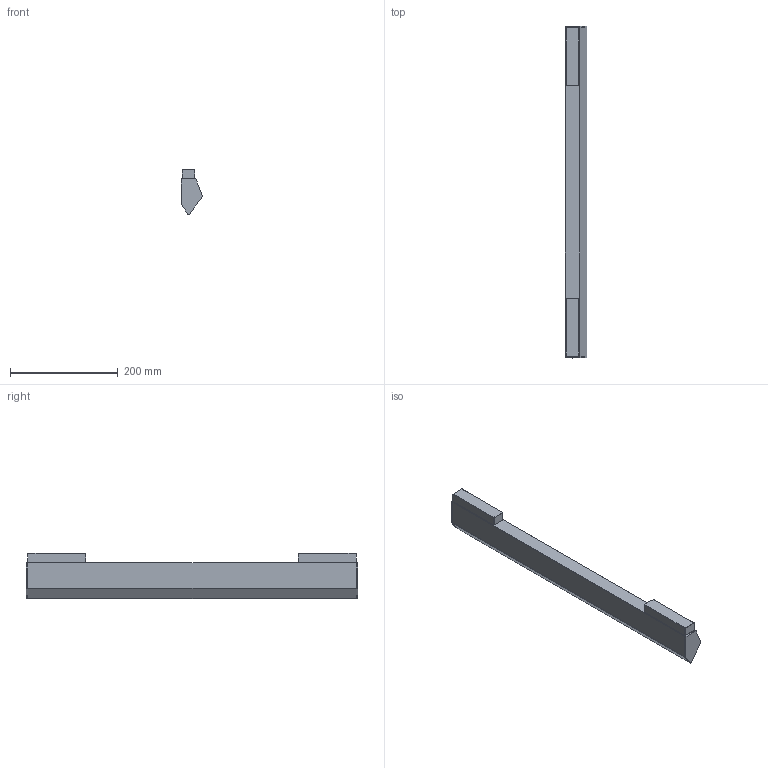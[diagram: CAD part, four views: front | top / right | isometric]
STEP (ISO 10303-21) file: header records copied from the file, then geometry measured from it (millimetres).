
FILE_DESCRIPTION(/* description */ (''),/* implementation_level */ '2;1');
FILE_NAME(/* name */ 'A.24 - Wall Washer - 600',/* time_stamp */ '2026-06-15T12:38:04+02:00',/* author */ (''),/* organization */ (''),/* preprocessor_version */ 'ST-DEVELOPER v16.5',/* originating_system */ 'Rhino 7.38',/* authorisation */ '');
FILE_SCHEMA (('CONFIG_CONTROL_DESIGN'));
Length unit declared in the file: millimetre
Products named in the file (1): Document
Bounding box: 39.98 x 616.5 x 83.74 mm (x, y, z)
Volume: 519134.4 mm3; surface area: 263994.6 mm2
Topology: 5 solids, 7 shells, 124 faces, 286 edges, 177 vertices
Faces by surface type: plane 54, cylinder 47, bspline 23
Entity records: 3714 total; most frequent: CARTESIAN_POINT 1791, ORIENTED_EDGE 566, EDGE_CURVE 284, VERTEX_POINT 174, EDGE_LOOP 126, ADVANCED_FACE 124, FACE_OUTER_BOUND 124, DIRECTION 109
